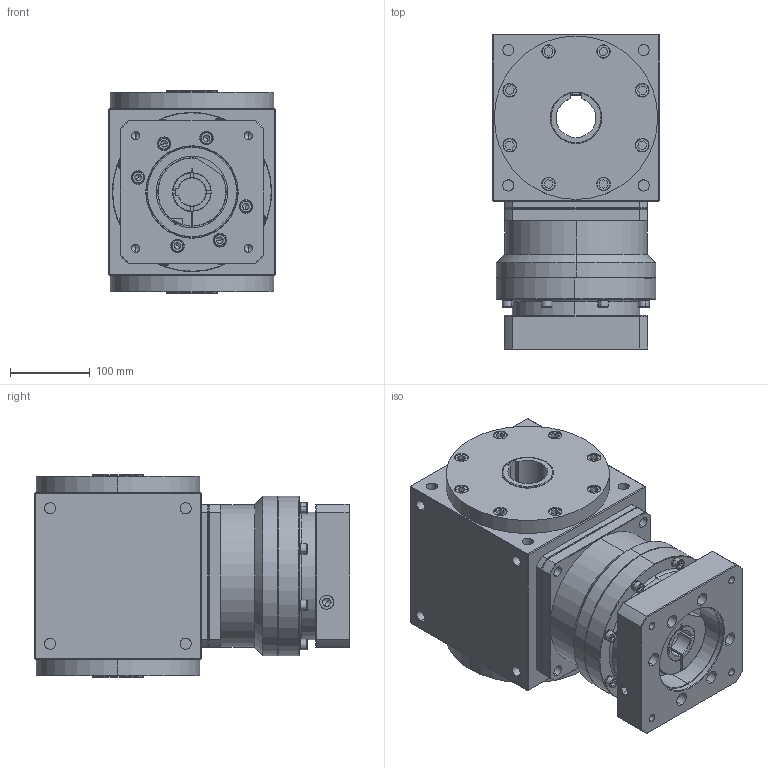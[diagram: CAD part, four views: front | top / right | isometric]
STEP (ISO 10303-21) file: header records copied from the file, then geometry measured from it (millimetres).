
FILE_DESCRIPTION (( 'STEP AP203' ), '1' );
FILE_NAME ('AT210-FH-L1 35-114.3-200-M12.STEP', '2024-12-30T00:44:49', ( '' ), ( '' ), 'SwSTEP 2.0', 'SolidWorks 2021', '' );
FILE_SCHEMA (( 'CONFIG_CONTROL_DESIGN' ));
Length unit declared in the file: millimetre
Products named in the file (3): AT210-FH-L1 35-114.3-200-M12; AT210-FH; KS180L1-114.3-35-82-M12-200俋倛芞
Assembly tree (2 placements, depth 2):
  AT210-FH-L1 35-114.3-200-M12
    AT210-FH
    KS180L1-114.3-35-82-M12-200俋倛芞
Bounding box: 210 x 396 x 254 mm (x, y, z)
Volume: 14764941.3 mm3; surface area: 779912.4 mm2
Topology: 36 solids, 36 shells, 1189 faces, 2802 edges, 1735 vertices
Faces by surface type: plane 579, cylinder 427, cone 147, bspline 36
Entity records: 34680 total; most frequent: CARTESIAN_POINT 7248, DIRECTION 5837, ORIENTED_EDGE 5500, EDGE_CURVE 2750, AXIS2_PLACEMENT_3D 2206, VERTEX_POINT 1735, VECTOR 1425, LINE 1425
